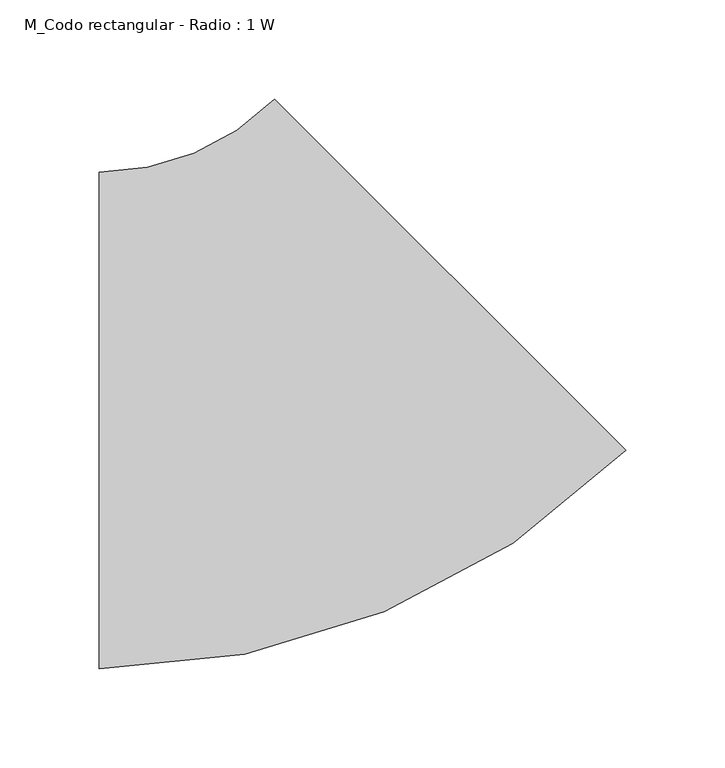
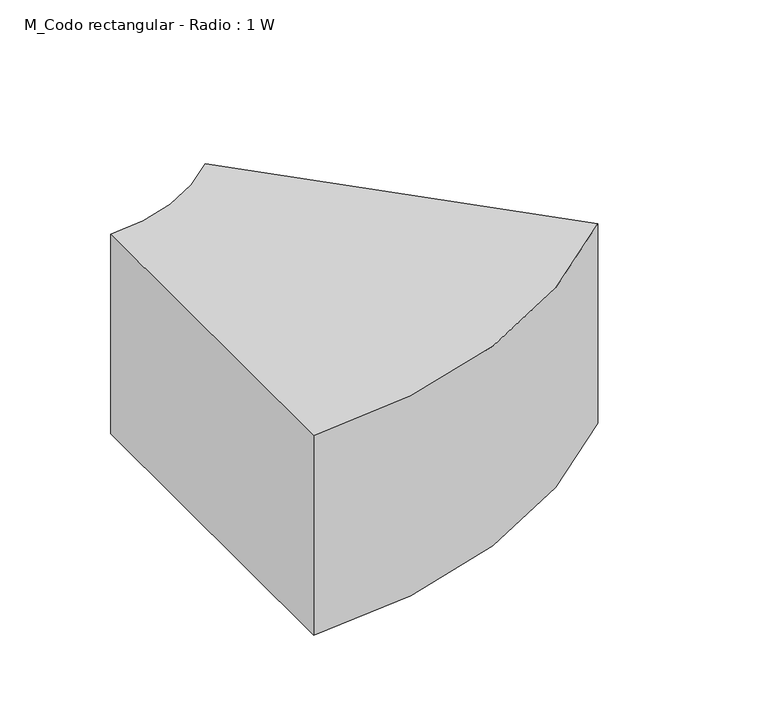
"""IFC4 building model written with IfcOpenShell, lengths in millimetres: duct fitting geometry, M_Codo rectangular - Radio : 1 W."""

import ifcopenshell
import ifcopenshell.guid

model = None  # the IFC model being written
_history = None  # IfcOwnerHistory: only IFC2X3 demands one
_inside = {}  # id of a spatial element -> (the spatial element, [elements in it])
_under = {}  # id of a project, library or spatial element -> (it, [spatial elements below it])
_declared = {}  # id of a project -> (the project, [libraries it declares])
_typed = {}  # id of a type object -> (the type object, [elements of that type])
_made_of = {}  # id of a material, layer set ... -> (it, [elements and type objects made of it])


def new_model(schema):
    """Start an empty IFC model of exactly this schema.

    Asked for "IFC4X3", IfcOpenShell would pick the latest addendum, in which some entities
    have other attributes; the version numbers below select the first issue.
    IFC2X3 requires an IfcOwnerHistory on every rooted entity: one is made here for all.
    """
    global model, _history
    if schema == "IFC4X3":
        model = ifcopenshell.file(schema_version=(4, 3, 0, 0))
    else:
        model = ifcopenshell.file(schema=schema)
    _inside.clear()
    _under.clear()
    _declared.clear()
    _typed.clear()
    _made_of.clear()
    _history = None
    if model.schema == "IFC2X3":
        org = make("IfcOrganization", Name="unknown")
        user = make(
            "IfcPersonAndOrganization",
            ThePerson=make("IfcPerson", FamilyName="unknown"),
            TheOrganization=org,
        )
        app = make(
            "IfcApplication",
            ApplicationDeveloper=org,
            Version="unknown",
            ApplicationFullName="unknown",
            ApplicationIdentifier="unknown",
        )
        _history = make(
            "IfcOwnerHistory",
            OwningUser=user,
            OwningApplication=app,
            ChangeAction="ADDED",
            CreationDate=0,
        )
    return model


def make(cls, **values):
    """One entity of the class cls with the attributes given. An attribute that is None is left unset."""
    return model.create_entity(
        cls, **{name: value for name, value in values.items() if value is not None}
    )


def rooted(cls, **values):
    """An entity with a GlobalId (a new one), such as an element, a storey or a relation."""
    return make(cls, GlobalId=ifcopenshell.guid.new(), OwnerHistory=_history, **values)


def si_unit(unit_type, name, prefix=None):
    """IfcSIUnit, for example si_unit("LENGTHUNIT", "METRE", prefix="MILLI")."""
    return make("IfcSIUnit", UnitType=unit_type, Prefix=prefix, Name=name)


def assignment(units):
    """IfcUnitAssignment: the units of a project."""
    return None if units is None else make("IfcUnitAssignment", Units=units)


def point(xyz):
    """IfcCartesianPoint."""
    return None if xyz is None else make("IfcCartesianPoint", Coordinates=xyz)


def direction(xyz):
    """IfcDirection."""
    return None if xyz is None else make("IfcDirection", DirectionRatios=xyz)


def frame(location, z_axis=None, x_axis=None):
    """IfcAxis2Placement3D, a coordinate frame: its origin and axes. An axis left out is left unset."""
    return make(
        "IfcAxis2Placement3D",
        Location=point(location),
        Axis=direction(z_axis),
        RefDirection=direction(x_axis),
    )


def frame_2d(location, x_axis=None):
    """IfcAxis2Placement2D, a coordinate frame in the plane: its origin and x axis."""
    return make(
        "IfcAxis2Placement2D", Location=point(location), RefDirection=direction(x_axis)
    )


def origin():
    """The frame at (0, 0, 0) with its axes left unset."""
    return frame((0.0, 0.0, 0.0))


def place(relative_to, where):
    """IfcLocalPlacement: puts the frame where relative to a parent placement (None: the world)."""
    return make(
        "IfcLocalPlacement", PlacementRelTo=relative_to, RelativePlacement=where
    )


def context(
    kind, dimensions, precision=None, world=None, true_north=None, identifier=None
):
    """IfcGeometricRepresentationContext, for example the 3D "Model" context."""
    return make(
        "IfcGeometricRepresentationContext",
        ContextIdentifier=identifier,
        ContextType=kind,
        CoordinateSpaceDimension=dimensions,
        Precision=precision,
        WorldCoordinateSystem=world,
        TrueNorth=true_north,
    )


def project(units=None, contexts=None):
    """IfcProject with its units and contexts."""
    return rooted(
        "IfcProject",
        Name="project",
        RepresentationContexts=contexts,
        UnitsInContext=assignment(units),
    )


def spatial(cls, under=None, at=None, **own):
    """A site, building, storey or space (cls), placed at a placement, below another one or the project."""
    s = rooted(cls, ObjectPlacement=at, **own)
    if under is not None:
        _under.setdefault(under.id(), (under, []))[1].append(s)
    return s


def polyline(points):
    """IfcPolyline through the points."""
    return make("IfcPolyline", Points=[point(p) for p in points])


def circle_curve(where, radius):
    """IfcCircle in the frame where."""
    return make("IfcCircle", Position=where, Radius=radius)


def trimmed(basis, trim1, trim2, sense, master):
    """IfcTrimmedCurve: the piece of a basis curve between two trims."""
    return make(
        "IfcTrimmedCurve",
        BasisCurve=basis,
        Trim1=trim1,
        Trim2=trim2,
        SenseAgreement=sense,
        MasterRepresentation=master,
    )


def segment(curve, same_sense, transition):
    """IfcCompositeCurveSegment."""
    return make(
        "IfcCompositeCurveSegment",
        Transition=transition,
        SameSense=same_sense,
        ParentCurve=curve,
    )


def composite_curve(segments, self_intersect=None):
    """IfcCompositeCurve: segments joined end to end."""
    return make("IfcCompositeCurve", Segments=segments, SelfIntersect=self_intersect)


def outline(outer, holes=None, kind="AREA"):
    """IfcArbitraryClosedProfileDef: a profile drawn as a closed curve; with holes, ...WithVoids."""
    if holes is None:
        return make("IfcArbitraryClosedProfileDef", ProfileType=kind, OuterCurve=outer)
    return make(
        "IfcArbitraryProfileDefWithVoids",
        ProfileType=kind,
        OuterCurve=outer,
        InnerCurves=holes,
    )


def extrude(swept, where, along, depth):
    """IfcExtrudedAreaSolid: the profile swept, set in the frame where, extruded along a direction by depth."""
    return make(
        "IfcExtrudedAreaSolid",
        SweptArea=swept,
        Position=where,
        ExtrudedDirection=direction(along),
        Depth=depth,
    )


def shape(context_of_items, identifier, shape_type, items):
    """IfcShapeRepresentation: the items that make up one representation, for example the "Body"."""
    return make(
        "IfcShapeRepresentation",
        ContextOfItems=context_of_items,
        RepresentationIdentifier=identifier,
        RepresentationType=shape_type,
        Items=items,
    )


def source(mapping_origin, context_of_items, identifier, shape_type, items):
    """IfcRepresentationMap: a shape defined once, which mapped items show again and again."""
    return make(
        "IfcRepresentationMap",
        MappingOrigin=mapping_origin,
        MappedRepresentation=shape(context_of_items, identifier, shape_type, items),
    )


def transform(
    local_origin,
    x_axis=None,
    y_axis=None,
    z_axis=None,
    scale=None,
    scale2=None,
    scale3=None,
    uniform=True,
):
    """IfcCartesianTransformationOperator3D, or its non-uniform kind. x_axis, y_axis, z_axis: its Axis1, 2, 3."""
    if uniform:
        return make(
            "IfcCartesianTransformationOperator3D",
            Axis1=direction(x_axis),
            Axis2=direction(y_axis),
            LocalOrigin=point(local_origin),
            Scale=scale,
            Axis3=direction(z_axis),
        )
    return make(
        "IfcCartesianTransformationOperator3DnonUniform",
        Axis1=direction(x_axis),
        Axis2=direction(y_axis),
        LocalOrigin=point(local_origin),
        Scale=scale,
        Axis3=direction(z_axis),
        Scale2=scale2,
        Scale3=scale3,
    )


def mapped(mapping_source, mapping_target):
    """IfcMappedItem: shows the shape of a source again, moved by a transform."""
    return make(
        "IfcMappedItem", MappingSource=mapping_source, MappingTarget=mapping_target
    )


def made_of(thing, what):
    """Note that an element or type object is made of a material, layer set ...; save() writes the relation."""
    if what is not None:
        _made_of.setdefault(what.id(), (what, []))[1].append(thing)
    return thing


def element(
    cls,
    number,
    at=None,
    inside=None,
    cuts=None,
    type_object=None,
    material=None,
    context=None,
    identifier="Body",
    shape_type=None,
    held_by="IfcProductDefinitionShape",
    body=None,
    shapes=None,
    **own,
):
    """One element of the class cls, such as IfcWall. Its Tag is "e" and its number.

    at: its placement. inside: the storey or other place that contains it. cuts: it is an
    opening in that element (IfcRelVoidsElement). A single representation is given by context,
    identifier, shape_type and body (its items); several are given by shapes. held_by: the class
    of the entity that holds the representations. save() writes the other relations.
    """
    e = rooted(cls, Tag="e%d" % number, ObjectPlacement=at, **own)
    if body is not None:
        shapes = [shape(context, identifier, shape_type, body)]
    if shapes is not None:
        e.Representation = make(held_by, Representations=shapes)
    if inside is not None:
        _inside.setdefault(inside.id(), (inside, []))[1].append(e)
    if cuts is not None:
        rooted(
            "IfcRelVoidsElement", RelatingBuildingElement=cuts, RelatedOpeningElement=e
        )
    if type_object is not None:
        _typed.setdefault(type_object.id(), (type_object, []))[1].append(e)
    return made_of(e, material)


def aggregate(whole, parts):
    """IfcRelAggregates: a whole, such as a stair, and the parts it consists of."""
    return rooted("IfcRelAggregates", RelatingObject=whole, RelatedObjects=parts)


def save(model, path):
    """Write the relations noted so far, then the file.

    IfcRelAggregates (storeys below a building ...), IfcRelContainedInSpatialStructure (elements
    in a storey), IfcRelDefinesByType, IfcRelAssociatesMaterial and IfcRelDeclares: one each for
    every whole, place, type object, material and project.
    """
    for whole, parts in _under.values():
        aggregate(whole, parts)
    for where, things in _inside.values():
        rooted(
            "IfcRelContainedInSpatialStructure",
            RelatedElements=things,
            RelatingStructure=where,
        )
    for kind, things in _typed.values():
        rooted("IfcRelDefinesByType", RelatedObjects=things, RelatingType=kind)
    for what, things in _made_of.values():
        rooted("IfcRelAssociatesMaterial", RelatedObjects=things, RelatingMaterial=what)
    for by, libraries in _declared.values():
        rooted("IfcRelDeclares", RelatingContext=by, RelatedDefinitions=libraries)
    model.write(path)


def m_codo_rectangular_radio_1_w_2c854ba3(model_context):
    return source(origin(), model_context, "Body", "SweptSolid", [
        extrude(outline(composite_curve([segment(trimmed(circle_curve(frame_2d((-103.5533906, 250.0)), 375.0), [point((161.6116524, -15.1650429))], [point((-103.5533906, -125.0))], False, "CARTESIAN"), True, "CONTINUOUS"), segment(polyline([(-103.5533906, -125.0), (-103.5533906, 125.0)]), True, "CONTINUOUS"), segment(trimmed(circle_curve(frame_2d((-103.5533906, 250.0)), 125.0), [point((-103.5533906, 125.0))], [point((-15.1650429, 161.6116524))], True, "CARTESIAN"), True, "CONTINUOUS"), segment(polyline([(-15.1650429, 161.6116524), (161.6116524, -15.1650429)]), True, "CONTINUOUS")], self_intersect=False)), frame((0.0, 0.0, -75.0), z_axis=(0.0, 0.0, 1.0), x_axis=(1.0, 0.0, 0.0)), (0.0, 0.0, 1.0), 150.0),
    ])


if __name__ == "__main__":
    model = new_model("IFC4")
    model_context = context("Model", 3, world=origin())
    ifc_project = project(units=[si_unit("LENGTHUNIT", "METRE", prefix="MILLI")], contexts=[model_context])
    site = spatial("IfcSite", under=ifc_project)
    building = spatial("IfcBuilding", under=site)
    placement = place(None, origin())
    m_codo_rectangular_radio_1_w_shape = m_codo_rectangular_radio_1_w_2c854ba3(model_context)
    element("IfcDuctFitting", 1, ObjectType="M_Codo rectangular - Radio : 1 W", at=placement, inside=building, context=model_context, shape_type="MappedRepresentation", body=[
        mapped(m_codo_rectangular_radio_1_w_shape, transform((0.0, 0.0, 0.0), x_axis=(1.0, 0.0, 0.0), y_axis=(0.0, 1.0, 0.0), z_axis=(0.0, 0.0, 1.0))),
    ])
    save(model, "model.ifc")
